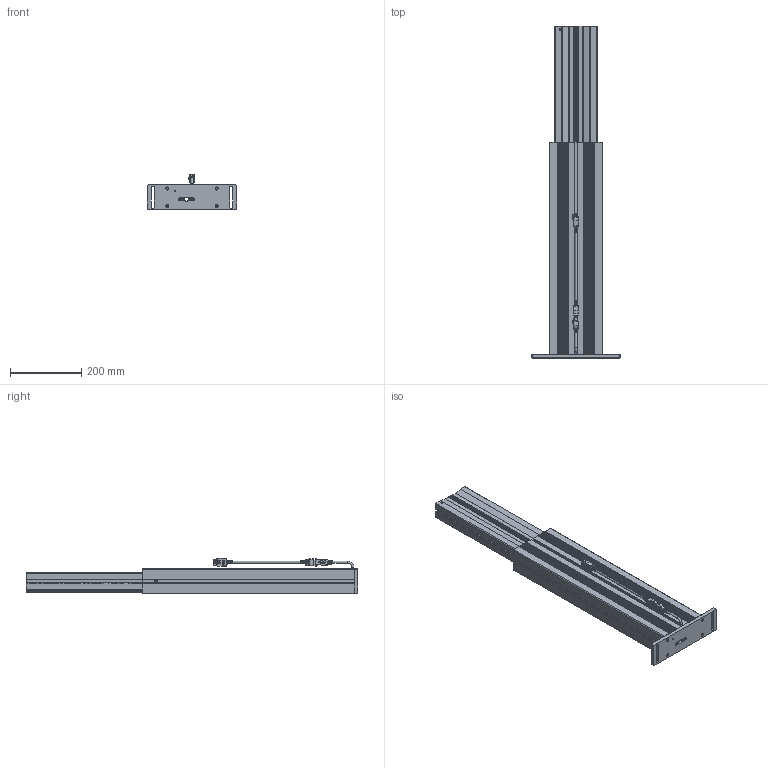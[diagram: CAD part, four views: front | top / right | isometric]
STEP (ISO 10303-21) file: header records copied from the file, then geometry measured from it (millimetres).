
FILE_DESCRIPTION(/* description */ ('Unknown'),/* implementation_level */ '2;1');
FILE_NAME(/* name */ '902.00004_05-Ausgefahren',/* time_stamp */ '2022-01-26T12:02:25+01:00',/* author */ ('Unknown'),/* organization */ ('Unknown'),/* preprocessor_version */ 'ST-DEVELOPER v18.1',/* originating_system */ 'Solid Edge',/* authorisation */ 'Unknown');
FILE_SCHEMA (('AUTOMOTIVE_DESIGN {1 0 10303 214 3 1 1}'));
Products named in the file (12): 902.00004; 126.00138; 119.00312; 119.00311; 142.00166; 124.00201_oa_0; 142.00241; 110.00104_oa_1; 115.00200_oa_2; 124.00151; Kabel Motor Sx; 142.00343
Assembly tree (16 placements, depth 2):
  902.00004
    126.00138
    119.00312
    119.00311
    142.00166  x4
    124.00201_oa_0
    142.00241  x2
    110.00104_oa_1
    115.00200_oa_2
    124.00151
    Kabel Motor Sx
    142.00343  x2
Bounding box: 250 x 930 x 100.17 mm (x, y, z)
Volume: 2617089.9 mm3; surface area: 1273971.1 mm2
Topology: 13 solids, 13 shells, 3370 faces, 9568 edges, 6336 vertices
Faces by surface type: plane 1939, cylinder 1239, torus 101, bspline 73, cone 12, sphere 6
Full cylindrical faces by diameter (mm): 1.5 x6, 1.82 x6, 2.459 x1, 2.7 x6, 3.242 x2, 3.4 x1, 4 x4, 5 x5, 5.5 x4, 6 x3, 7 x2, 8 x2, 8.5 x4, 8.7 x4, 30 x2
Entity records: 128373 total; most frequent: CARTESIAN_POINT 23132, ORIENTED_EDGE 18662, DIRECTION 18138, EDGE_CURVE 9331, VERTEX_POINT 6220, LINE 6102, VECTOR 6102, AXIS2_PLACEMENT_3D 6018
